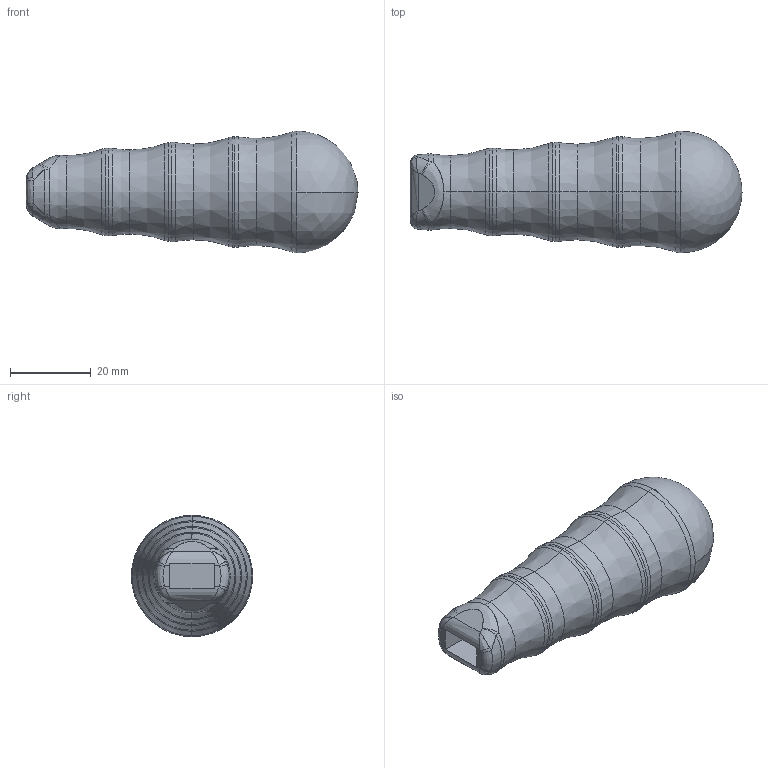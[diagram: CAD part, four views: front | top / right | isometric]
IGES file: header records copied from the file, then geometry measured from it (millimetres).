
Global section: file name: No Iges File Name specified; native system: AutoDesk Inventor R6.1; preprocessor: AutoDesk Inventor Iges Exporter R6.1; author: No Author specified; organization: No Organization specified; date: 20050928.114333; units: millimetre
Bounding box: 82 x 30 x 30 mm (x, y, z)
Surface area: 9100.8 mm2 (no closed solid volume)
Topology: 0 solids, 0 shells, 73 faces, 322 edges, 316 vertices
Faces by surface type: bspline 48, revolution 16, plane 9
